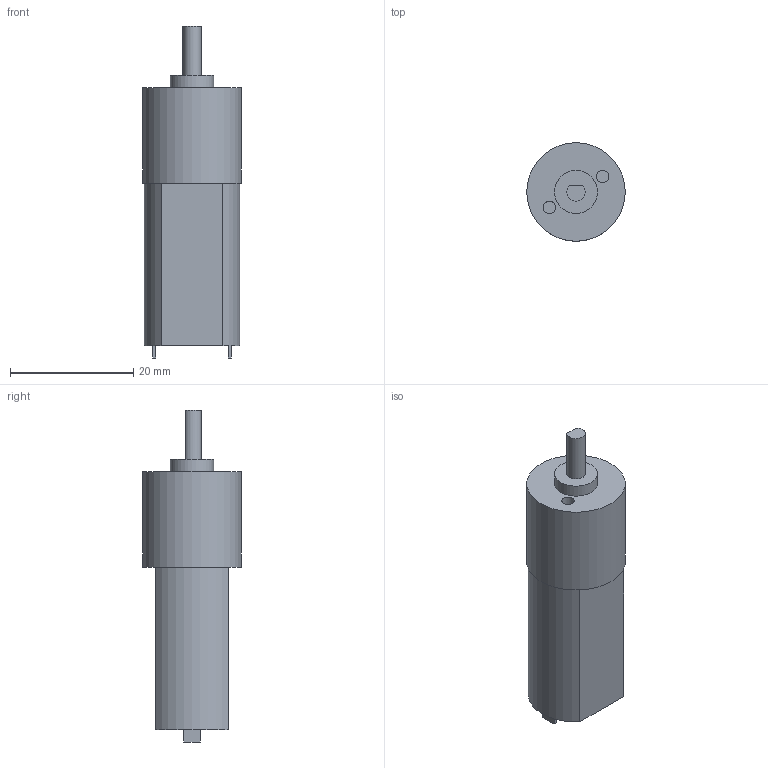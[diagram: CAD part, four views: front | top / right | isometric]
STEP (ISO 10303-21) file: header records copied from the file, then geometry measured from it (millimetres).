
FILE_DESCRIPTION(/* description */ (''),/* implementation_level */ '2;1');
FILE_NAME(/* name */ 'C:/Users/priba/Documents/Temp/Motor16mmL15.5.step',/* time_stamp */ '2020-04-08T11:33:50+02:00',/* author */ (''),/* organization */ (''),/* preprocessor_version */ 'ST-DEVELOPER v18',/* originating_system */ 'Autodesk Translation Framework v8.12.0.6',/* authorisation */ '');
FILE_SCHEMA (('AUTOMOTIVE_DESIGN { 1 0 10303 214 3 1 1 }'));
Length unit declared in the file: millimetre
Products named in the file (1): Motor16mmL15.5
Bounding box: 16 x 16 x 53.9 mm (x, y, z)
Volume: 7531 mm3; surface area: 2619.5 mm2
Topology: 1 solids, 1 shells, 27 faces, 58 edges, 40 vertices
Faces by surface type: plane 20, cylinder 7
Full cylindrical faces by diameter (mm): 2 x2, 7 x1, 16 x1
Entity records: 775 total; most frequent: DIRECTION 132, CARTESIAN_POINT 126, ORIENTED_EDGE 116, EDGE_CURVE 58, AXIS2_PLACEMENT_3D 46, LINE 40, VECTOR 40, VERTEX_POINT 40
